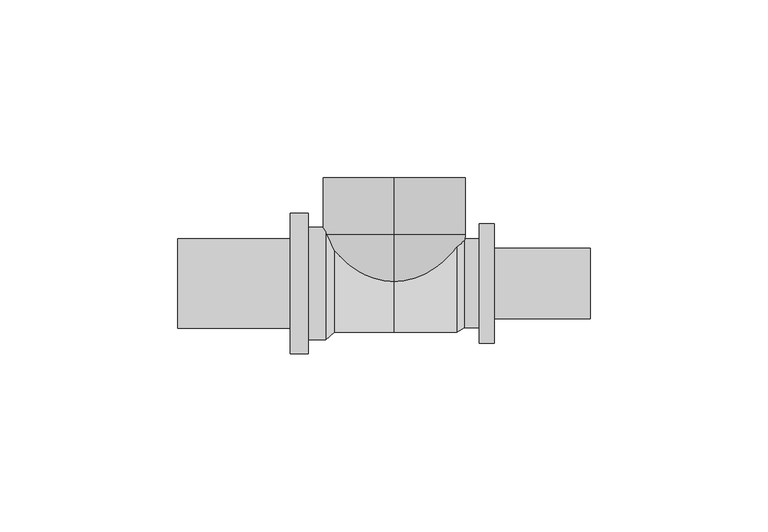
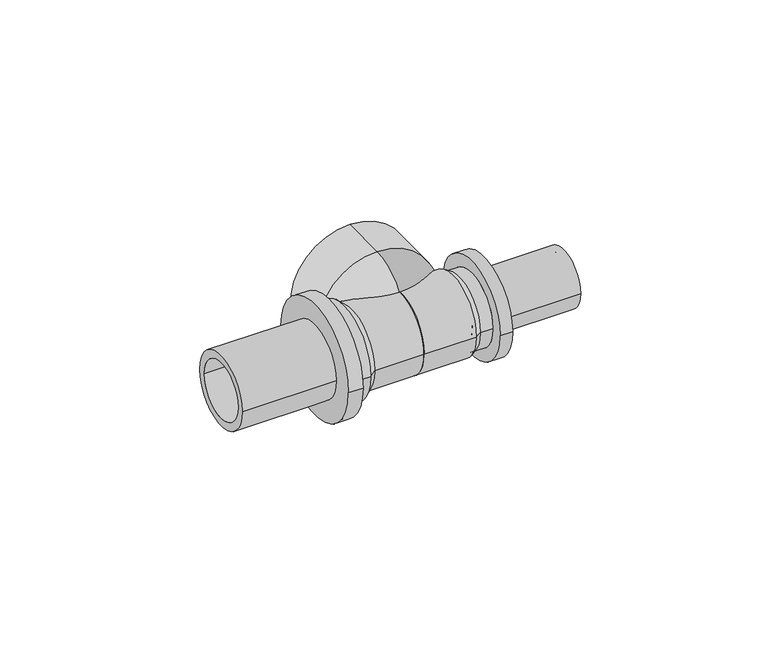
"""IFC4 building model written with IfcOpenShell, lengths in millimetres: pipe fitting geometry, REHAU_RAUTITAN_T-piece RX+, outlet with internal thread : REHAU_RAUTITAN_T-piece RX+, outlet with internal thread."""

import ifcopenshell
import ifcopenshell.guid

model = None  # the IFC model being written
_history = None  # IfcOwnerHistory: only IFC2X3 demands one
_inside = {}  # id of a spatial element -> (the spatial element, [elements in it])
_under = {}  # id of a project, library or spatial element -> (it, [spatial elements below it])
_declared = {}  # id of a project -> (the project, [libraries it declares])
_typed = {}  # id of a type object -> (the type object, [elements of that type])
_made_of = {}  # id of a material, layer set ... -> (it, [elements and type objects made of it])


def new_model(schema):
    """Start an empty IFC model of exactly this schema.

    Asked for "IFC4X3", IfcOpenShell would pick the latest addendum, in which some entities
    have other attributes; the version numbers below select the first issue.
    IFC2X3 requires an IfcOwnerHistory on every rooted entity: one is made here for all.
    """
    global model, _history
    if schema == "IFC4X3":
        model = ifcopenshell.file(schema_version=(4, 3, 0, 0))
    else:
        model = ifcopenshell.file(schema=schema)
    _inside.clear()
    _under.clear()
    _declared.clear()
    _typed.clear()
    _made_of.clear()
    _history = None
    if model.schema == "IFC2X3":
        org = make("IfcOrganization", Name="unknown")
        user = make(
            "IfcPersonAndOrganization",
            ThePerson=make("IfcPerson", FamilyName="unknown"),
            TheOrganization=org,
        )
        app = make(
            "IfcApplication",
            ApplicationDeveloper=org,
            Version="unknown",
            ApplicationFullName="unknown",
            ApplicationIdentifier="unknown",
        )
        _history = make(
            "IfcOwnerHistory",
            OwningUser=user,
            OwningApplication=app,
            ChangeAction="ADDED",
            CreationDate=0,
        )
    return model


def make(cls, **values):
    """One entity of the class cls with the attributes given. An attribute that is None is left unset."""
    return model.create_entity(
        cls, **{name: value for name, value in values.items() if value is not None}
    )


def rooted(cls, **values):
    """An entity with a GlobalId (a new one), such as an element, a storey or a relation."""
    return make(cls, GlobalId=ifcopenshell.guid.new(), OwnerHistory=_history, **values)


def si_unit(unit_type, name, prefix=None):
    """IfcSIUnit, for example si_unit("LENGTHUNIT", "METRE", prefix="MILLI")."""
    return make("IfcSIUnit", UnitType=unit_type, Prefix=prefix, Name=name)


def assignment(units):
    """IfcUnitAssignment: the units of a project."""
    return None if units is None else make("IfcUnitAssignment", Units=units)


def point(xyz):
    """IfcCartesianPoint."""
    return None if xyz is None else make("IfcCartesianPoint", Coordinates=xyz)


def direction(xyz):
    """IfcDirection."""
    return None if xyz is None else make("IfcDirection", DirectionRatios=xyz)


def frame(location, z_axis=None, x_axis=None):
    """IfcAxis2Placement3D, a coordinate frame: its origin and axes. An axis left out is left unset."""
    return make(
        "IfcAxis2Placement3D",
        Location=point(location),
        Axis=direction(z_axis),
        RefDirection=direction(x_axis),
    )


def origin():
    """The frame at (0, 0, 0) with its axes left unset."""
    return frame((0.0, 0.0, 0.0))


def place(relative_to, where):
    """IfcLocalPlacement: puts the frame where relative to a parent placement (None: the world)."""
    return make(
        "IfcLocalPlacement", PlacementRelTo=relative_to, RelativePlacement=where
    )


def context(
    kind, dimensions, precision=None, world=None, true_north=None, identifier=None
):
    """IfcGeometricRepresentationContext, for example the 3D "Model" context."""
    return make(
        "IfcGeometricRepresentationContext",
        ContextIdentifier=identifier,
        ContextType=kind,
        CoordinateSpaceDimension=dimensions,
        Precision=precision,
        WorldCoordinateSystem=world,
        TrueNorth=true_north,
    )


def project(units=None, contexts=None):
    """IfcProject with its units and contexts."""
    return rooted(
        "IfcProject",
        Name="project",
        RepresentationContexts=contexts,
        UnitsInContext=assignment(units),
    )


def spatial(cls, under=None, at=None, **own):
    """A site, building, storey or space (cls), placed at a placement, below another one or the project."""
    s = rooted(cls, ObjectPlacement=at, **own)
    if under is not None:
        _under.setdefault(under.id(), (under, []))[1].append(s)
    return s


def polyline(points):
    """IfcPolyline through the points."""
    return make("IfcPolyline", Points=[point(p) for p in points])


def circle_curve(where, radius):
    """IfcCircle in the frame where."""
    return make("IfcCircle", Position=where, Radius=radius)


def ellipse_curve(where, semi_axis1, semi_axis2):
    """IfcEllipse in the frame where."""
    return make(
        "IfcEllipse", Position=where, SemiAxis1=semi_axis1, SemiAxis2=semi_axis2
    )


def trimmed(basis, trim1, trim2, sense, master):
    """IfcTrimmedCurve: the piece of a basis curve between two trims."""
    return make(
        "IfcTrimmedCurve",
        BasisCurve=basis,
        Trim1=trim1,
        Trim2=trim2,
        SenseAgreement=sense,
        MasterRepresentation=master,
    )


def shape(context_of_items, identifier, shape_type, items):
    """IfcShapeRepresentation: the items that make up one representation, for example the "Body"."""
    return make(
        "IfcShapeRepresentation",
        ContextOfItems=context_of_items,
        RepresentationIdentifier=identifier,
        RepresentationType=shape_type,
        Items=items,
    )


def source(mapping_origin, context_of_items, identifier, shape_type, items):
    """IfcRepresentationMap: a shape defined once, which mapped items show again and again."""
    return make(
        "IfcRepresentationMap",
        MappingOrigin=mapping_origin,
        MappedRepresentation=shape(context_of_items, identifier, shape_type, items),
    )


def transform(
    local_origin,
    x_axis=None,
    y_axis=None,
    z_axis=None,
    scale=None,
    scale2=None,
    scale3=None,
    uniform=True,
):
    """IfcCartesianTransformationOperator3D, or its non-uniform kind. x_axis, y_axis, z_axis: its Axis1, 2, 3."""
    if uniform:
        return make(
            "IfcCartesianTransformationOperator3D",
            Axis1=direction(x_axis),
            Axis2=direction(y_axis),
            LocalOrigin=point(local_origin),
            Scale=scale,
            Axis3=direction(z_axis),
        )
    return make(
        "IfcCartesianTransformationOperator3DnonUniform",
        Axis1=direction(x_axis),
        Axis2=direction(y_axis),
        LocalOrigin=point(local_origin),
        Scale=scale,
        Axis3=direction(z_axis),
        Scale2=scale2,
        Scale3=scale3,
    )


def mapped(mapping_source, mapping_target):
    """IfcMappedItem: shows the shape of a source again, moved by a transform."""
    return make(
        "IfcMappedItem", MappingSource=mapping_source, MappingTarget=mapping_target
    )


def made_of(thing, what):
    """Note that an element or type object is made of a material, layer set ...; save() writes the relation."""
    if what is not None:
        _made_of.setdefault(what.id(), (what, []))[1].append(thing)
    return thing


def element(
    cls,
    number,
    at=None,
    inside=None,
    cuts=None,
    type_object=None,
    material=None,
    context=None,
    identifier="Body",
    shape_type=None,
    held_by="IfcProductDefinitionShape",
    body=None,
    shapes=None,
    **own,
):
    """One element of the class cls, such as IfcWall. Its Tag is "e" and its number.

    at: its placement. inside: the storey or other place that contains it. cuts: it is an
    opening in that element (IfcRelVoidsElement). A single representation is given by context,
    identifier, shape_type and body (its items); several are given by shapes. held_by: the class
    of the entity that holds the representations. save() writes the other relations.
    """
    e = rooted(cls, Tag="e%d" % number, ObjectPlacement=at, **own)
    if body is not None:
        shapes = [shape(context, identifier, shape_type, body)]
    if shapes is not None:
        e.Representation = make(held_by, Representations=shapes)
    if inside is not None:
        _inside.setdefault(inside.id(), (inside, []))[1].append(e)
    if cuts is not None:
        rooted(
            "IfcRelVoidsElement", RelatingBuildingElement=cuts, RelatedOpeningElement=e
        )
    if type_object is not None:
        _typed.setdefault(type_object.id(), (type_object, []))[1].append(e)
    return made_of(e, material)


def aggregate(whole, parts):
    """IfcRelAggregates: a whole, such as a stair, and the parts it consists of."""
    return rooted("IfcRelAggregates", RelatingObject=whole, RelatedObjects=parts)


def save(model, path):
    """Write the relations noted so far, then the file.

    IfcRelAggregates (storeys below a building ...), IfcRelContainedInSpatialStructure (elements
    in a storey), IfcRelDefinesByType, IfcRelAssociatesMaterial and IfcRelDeclares: one each for
    every whole, place, type object, material and project.
    """
    for whole, parts in _under.values():
        aggregate(whole, parts)
    for where, things in _inside.values():
        rooted(
            "IfcRelContainedInSpatialStructure",
            RelatedElements=things,
            RelatingStructure=where,
        )
    for kind, things in _typed.values():
        rooted("IfcRelDefinesByType", RelatedObjects=things, RelatingType=kind)
    for what, things in _made_of.values():
        rooted("IfcRelAssociatesMaterial", RelatedObjects=things, RelatingMaterial=what)
    for by, libraries in _declared.values():
        rooted("IfcRelDeclares", RelatingContext=by, RelatedDefinitions=libraries)
    model.write(path)


def plane_surface(at):
    """IfcPlane: the flat surface through the origin of the frame at, square to its z axis."""
    return make("IfcPlane", Position=at)


def cylinder_surface(at, radius):
    """IfcCylindricalSurface: all points at the distance radius from the z axis of the frame at."""
    return make("IfcCylindricalSurface", Position=at, Radius=radius)


def revolved_surface(curve, axis_point, axis_direction):
    """IfcSurfaceOfRevolution: the curve turned about the line through axis_point along axis_direction."""
    return make(
        "IfcSurfaceOfRevolution",
        SweptCurve=make("IfcArbitraryOpenProfileDef", ProfileType="CURVE", Curve=curve),
        AxisPosition=make("IfcAxis1Placement", Location=point(axis_point), Axis=direction(axis_direction)),
    )


def advanced_brep(points, edges, surfaces, faces):
    """IfcAdvancedBrep: a solid bounded by faces that lie on surfaces and meet in shared edges.

    An edge is (start, end): straight between two places in points (the first is 0);
    or (start, end, curve); or (start, end, curve, False) where it runs against its curve.
    A face is (place in surfaces, loops), or (place, loops, False) where it looks against
    its surface's normal. A loop lists edges by number (the first is 1), with a minus sign
    where the edge is run from its end to its start. The first loop is the outer one.
    """
    corners = [point(p) for p in points]
    vertices = [make("IfcVertexPoint", VertexGeometry=c) for c in corners]
    made = []
    for start, end, *more in edges:
        made.append(
            make(
                "IfcEdgeCurve",
                EdgeStart=vertices[start],
                EdgeEnd=vertices[end],
                EdgeGeometry=more[0] if more else make("IfcPolyline", Points=[corners[start], corners[end]]),
                SameSense=more[1] if len(more) > 1 else True,
            )
        )
    hull = []
    for where, loops, *sense in faces:
        bounds = []
        for j, loop in enumerate(loops):
            ring = [make("IfcOrientedEdge", EdgeElement=made[abs(k) - 1], Orientation=k > 0) for k in loop]
            bounds.append(
                make(
                    "IfcFaceOuterBound" if j == 0 else "IfcFaceBound",
                    Bound=make("IfcEdgeLoop", EdgeList=ring),
                    Orientation=True,
                )
            )
        hull.append(make("IfcAdvancedFace", Bounds=bounds, FaceSurface=surfaces[where], SameSense=sense[0] if sense else True))
    return make("IfcAdvancedBrep", Outer=make("IfcClosedShell", CfsFaces=hull))


def pipe_fitting_2d11deeb(model_context):
    return source(origin(), model_context, "Body", "AdvancedBrep", [
        advanced_brep(
        [(0.0, -2.3672221, 4.52), (0.0, -2.3672221, -4.52), (0.0, 13.7, -20.095), (0.0, 13.7, 20.095), (0.0, 1.6553736, 4.52), (0.0, 1.6553736, -4.52), (0.0, 13.7, 16.075), (0.0, 13.7, -16.075), (0.0, 29.7, 16.075), (0.0, 29.7, -16.075), (0.0, 29.7, -20.095), (0.0, 29.7, 20.095)],
        [
            (0, 1, circle_curve(frame((0.0, -2.3672221, 0.0), z_axis=(0.0, 1.0, 0.0), x_axis=(0.0, 0.0, -1.0)), 4.52)),
            (1, 2, circle_curve(frame((0.0, 13.7, -4.02), z_axis=(1.0, 0.0, 0.0), x_axis=(0.0, 1.0, 0.0)), 16.075)),
            (2, 3, circle_curve(frame((0.0, 13.7, 0.0), z_axis=(0.0, -1.0, 0.0), x_axis=(0.0, 0.0, -1.0)), 20.095)),
            (3, 0, circle_curve(frame((0.0, 13.7, 4.02), z_axis=(1.0, 0.0, 0.0), x_axis=(0.0, 1.0, 0.0)), 16.075)),
            (4, 5, circle_curve(frame((0.0, 1.6553736, 0.0), z_axis=(0.0, 1.0, 0.0), x_axis=(0.0, 0.0, -1.0)), 4.52)),
            (5, 1),
            (0, 4),
            (6, 7, circle_curve(frame((0.0, 13.7, 0.0), z_axis=(0.0, 1.0, 0.0), x_axis=(0.0, 0.0, -1.0)), 16.075)),
            (7, 5, circle_curve(frame((0.0, 13.7, -4.02), z_axis=(-1.0, 0.0, 0.0), x_axis=(0.0, 1.0, 0.0)), 12.055)),
            (4, 6, circle_curve(frame((0.0, 13.7, 4.02), z_axis=(-1.0, 0.0, 0.0), x_axis=(0.0, 1.0, 0.0)), 12.055)),
            (8, 9, circle_curve(frame((0.0, 29.7, 0.0), z_axis=(0.0, 1.0, 0.0), x_axis=(0.0, 0.0, -1.0)), 16.075)),
            (9, 7),
            (6, 8),
            (2, 10),
            (10, 11, circle_curve(frame((0.0, 29.7, 0.0), z_axis=(0.0, -1.0, 0.0), x_axis=(0.0, 0.0, -1.0)), 20.095)),
            (11, 3),
            (1, 0, circle_curve(frame((0.0, -2.3672221, 0.0), z_axis=(0.0, 1.0, 0.0), x_axis=(0.0, 0.0, 1.0)), 4.52)),
            (3, 2, circle_curve(frame((0.0, 13.7, 0.0), z_axis=(0.0, -1.0, 0.0), x_axis=(0.0, 0.0, 1.0)), 20.095)),
            (5, 4, circle_curve(frame((0.0, 1.6553736, 0.0), z_axis=(0.0, 1.0, 0.0), x_axis=(0.0, 0.0, 1.0)), 4.52)),
            (7, 6, circle_curve(frame((0.0, 13.7, 0.0), z_axis=(0.0, 1.0, 0.0), x_axis=(0.0, 0.0, 1.0)), 16.075)),
            (9, 8, circle_curve(frame((0.0, 29.7, 0.0), z_axis=(0.0, 1.0, 0.0), x_axis=(0.0, 0.0, 1.0)), 16.075)),
            (10, 11, circle_curve(frame((0.0, 29.7, 0.0), z_axis=(0.0, 1.0, 0.0), x_axis=(0.0, 0.0, 1.0)), 20.095)),
        ],
        [
            revolved_surface(trimmed(ellipse_curve(frame((0.0, 13.7, -4.02), z_axis=(-1.0, 0.0, 0.0), x_axis=(0.0, 1.0, 0.0)), 16.075, 16.075), [point((0.0, 13.7, -20.095))], [point((0.0, -2.3672221, -4.52))], True, "CARTESIAN"), (0.0, 0.0, 0.0), (0.0, -1.0, 0.0)),
            revolved_surface(polyline([(0.0, -2.3672221, -4.52), (0.0, 1.6553736, -4.52)]), (0.0, 0.0, 0.0), (0.0, -1.0, 0.0)),
            revolved_surface(trimmed(ellipse_curve(frame((0.0, 13.7, -4.02), z_axis=(1.0, 0.0, 0.0), x_axis=(0.0, 1.0, 0.0)), 12.055, 12.055), [point((0.0, 1.6553736, -4.52))], [point((0.0, 13.7, -16.075))], True, "CARTESIAN"), (0.0, 0.0, 0.0), (0.0, -1.0, 0.0)),
            revolved_surface(polyline([(0.0, 13.7, -16.075), (0.0, 29.7, -16.075)]), (0.0, 0.0, 0.0), (0.0, -1.0, 0.0)),
            cylinder_surface(frame((0.0, 0.0, 0.0), z_axis=(0.0, -1.0, 0.0), x_axis=(0.0, 0.0, -1.0)), 20.095),
            revolved_surface(trimmed(ellipse_curve(frame((0.0, 13.7, 4.02), z_axis=(1.0, 0.0, 0.0), x_axis=(0.0, 1.0, 0.0)), 16.075, 16.075), [point((0.0, 13.7, 20.095))], [point((0.0, -2.3672221, 4.52))], True, "CARTESIAN"), (0.0, 0.0, 0.0), (0.0, -1.0, 0.0)),
            revolved_surface(polyline([(0.0, -2.3672221, 4.52), (0.0, 1.6553736, 4.52)]), (0.0, 0.0, 0.0), (0.0, -1.0, 0.0)),
            revolved_surface(trimmed(ellipse_curve(frame((0.0, 13.7, 4.02), z_axis=(-1.0, 0.0, 0.0), x_axis=(0.0, 1.0, 0.0)), 12.055, 12.055), [point((0.0, 1.6553736, 4.52))], [point((0.0, 13.7, 16.075))], True, "CARTESIAN"), (0.0, 0.0, 0.0), (0.0, -1.0, 0.0)),
            revolved_surface(polyline([(0.0, 13.7, 16.075), (0.0, 29.7, 16.075)]), (0.0, 0.0, 0.0), (0.0, -1.0, 0.0)),
            plane_surface(frame((0.0, 29.7, 0.0), z_axis=(0.0, 1.0, 0.0), x_axis=(0.0, 0.0, 1.0))),
            cylinder_surface(frame((0.0, 0.0, 0.0), z_axis=(0.0, -1.0, 0.0), x_axis=(0.0, 0.0, 1.0)), 20.095),
        ],
        [
            (0, [[1, 2, 3, 4]]),
            (1, [[5, 6, -1, 7]]),
            (2, [[8, 9, -5, 10]]),
            (3, [[11, 12, -8, 13]]),
            (4, [[-3, 14, 15, 16]]),
            (5, [[17, -4, 18, -2]]),
            (6, [[19, -7, -17, -6]]),
            (7, [[20, -10, -19, -9]]),
            (8, [[21, -13, -20, -12]]),
            (9, [[22, -15], [-21, -11]]),
            (10, [[-18, -16, -22, -14]]),
        ],
    ),
        advanced_brep(
        [(19.74, 7.595, 0.0), (19.74, -7.595, 0.0), (55.14, -7.595, 0.0), (55.14, 7.595, 0.0), (17.64, 11.01, 0.0), (17.64, -11.01, 0.0), (0.0, 11.01, 0.0), (0.0, -11.01, 0.0), (17.64, 13.775, 0.0), (17.64, -13.775, 0.0), (0.0, -13.775, 0.0), (0.0, 13.775, 0.0), (19.74, 12.5, 0.0), (19.74, -12.5, 0.0), (23.94, 12.5, 0.0), (23.94, -12.5, 0.0), (28.14, 16.795, 0.0), (28.14, -16.795, 0.0), (23.94, -16.795, 0.0), (23.94, 16.795, 0.0), (55.14, 9.87, 0.0), (55.14, -9.87, 0.0), (28.14, -9.87, 0.0), (28.14, 9.87, 0.0)],
        [
            (0, 1, circle_curve(frame((19.74, 0.0, 0.0), z_axis=(-1.0, 0.0, 0.0), x_axis=(0.0, -1.0, 0.0)), 7.595)),
            (1, 2),
            (2, 3, circle_curve(frame((55.14, 0.0, 0.0), z_axis=(1.0, 0.0, 0.0), x_axis=(0.0, -1.0, 0.0)), 7.595)),
            (3, 0),
            (4, 5, circle_curve(frame((17.64, 0.0, 0.0), z_axis=(-1.0, 0.0, 0.0), x_axis=(0.0, -1.0, 0.0)), 11.01)),
            (5, 1),
            (0, 4),
            (6, 7, circle_curve(frame((0.0, 0.0, 0.0), z_axis=(-1.0, 0.0, 0.0), x_axis=(0.0, -1.0, 0.0)), 11.01)),
            (7, 5),
            (4, 6),
            (8, 9, circle_curve(frame((17.64, 0.0, 0.0), z_axis=(-1.0, 0.0, 0.0), x_axis=(0.0, -1.0, 0.0)), 13.775)),
            (9, 10),
            (10, 11, circle_curve(frame((0.0, 0.0, 0.0), z_axis=(1.0, 0.0, 0.0), x_axis=(0.0, -1.0, 0.0)), 13.775)),
            (11, 8),
            (12, 13, circle_curve(frame((19.74, 0.0, 0.0), z_axis=(-1.0, 0.0, 0.0), x_axis=(0.0, -1.0, 0.0)), 12.5)),
            (13, 9),
            (8, 12),
            (14, 15, circle_curve(frame((23.94, 0.0, 0.0), z_axis=(-1.0, 0.0, 0.0), x_axis=(0.0, -1.0, 0.0)), 12.5)),
            (15, 13),
            (12, 14),
            (16, 17, circle_curve(frame((28.14, 0.0, 0.0), z_axis=(-1.0, 0.0, 0.0), x_axis=(0.0, -1.0, 0.0)), 16.795)),
            (17, 18),
            (18, 19, circle_curve(frame((23.94, 0.0, 0.0), z_axis=(1.0, 0.0, 0.0), x_axis=(0.0, -1.0, 0.0)), 16.795)),
            (19, 16),
            (20, 21, circle_curve(frame((55.14, 0.0, 0.0), z_axis=(-1.0, 0.0, 0.0), x_axis=(0.0, -1.0, 0.0)), 9.87)),
            (21, 22),
            (22, 23, circle_curve(frame((28.14, 0.0, 0.0), z_axis=(1.0, 0.0, 0.0), x_axis=(0.0, -1.0, 0.0)), 9.87)),
            (23, 20),
            (20, 21, circle_curve(frame((55.14, 0.0, 0.0), z_axis=(1.0, 0.0, 0.0), x_axis=(0.0, 1.0, 0.0)), 9.87)),
            (2, 3, circle_curve(frame((55.14, 0.0, 0.0), z_axis=(-1.0, 0.0, 0.0), x_axis=(0.0, 1.0, 0.0)), 7.595)),
            (1, 0, circle_curve(frame((19.74, 0.0, 0.0), z_axis=(-1.0, 0.0, 0.0), x_axis=(0.0, 1.0, 0.0)), 7.595)),
            (5, 4, circle_curve(frame((17.64, 0.0, 0.0), z_axis=(-1.0, 0.0, 0.0), x_axis=(0.0, 1.0, 0.0)), 11.01)),
            (7, 6, circle_curve(frame((0.0, 0.0, 0.0), z_axis=(-1.0, 0.0, 0.0), x_axis=(0.0, 1.0, 0.0)), 11.01)),
            (10, 11, circle_curve(frame((0.0, 0.0, 0.0), z_axis=(-1.0, 0.0, 0.0), x_axis=(0.0, 1.0, 0.0)), 13.775)),
            (9, 8, circle_curve(frame((17.64, 0.0, 0.0), z_axis=(-1.0, 0.0, 0.0), x_axis=(0.0, 1.0, 0.0)), 13.775)),
            (13, 12, circle_curve(frame((19.74, 0.0, 0.0), z_axis=(-1.0, 0.0, 0.0), x_axis=(0.0, 1.0, 0.0)), 12.5)),
            (15, 14, circle_curve(frame((23.94, 0.0, 0.0), z_axis=(-1.0, 0.0, 0.0), x_axis=(0.0, 1.0, 0.0)), 12.5)),
            (18, 19, circle_curve(frame((23.94, 0.0, 0.0), z_axis=(-1.0, 0.0, 0.0), x_axis=(0.0, 1.0, 0.0)), 16.795)),
            (17, 16, circle_curve(frame((28.14, 0.0, 0.0), z_axis=(-1.0, 0.0, 0.0), x_axis=(0.0, 1.0, 0.0)), 16.795)),
            (22, 23, circle_curve(frame((28.14, 0.0, 0.0), z_axis=(-1.0, 0.0, 0.0), x_axis=(0.0, 1.0, 0.0)), 9.87)),
        ],
        [
            revolved_surface(polyline([(55.14, -7.595, 0.0), (19.74, -7.595, 0.0)]), (0.0, 0.0, 0.0), (1.0, 0.0, 0.0)),
            revolved_surface(polyline([(19.74, -7.595, 0.0), (17.64, -11.01, 0.0)]), (0.0, 0.0, 0.0), (1.0, 0.0, 0.0)),
            revolved_surface(polyline([(17.64, -11.01, 0.0), (0.0, -11.01, 0.0)]), (0.0, 0.0, 0.0), (1.0, 0.0, 0.0)),
            cylinder_surface(frame((0.0, 0.0, 0.0), z_axis=(1.0, 0.0, 0.0), x_axis=(0.0, -1.0, 0.0)), 13.775),
            revolved_surface(polyline([(17.64, -13.775, 0.0), (19.74, -12.5, 0.0)]), (0.0, 0.0, 0.0), (1.0, 0.0, 0.0)),
            cylinder_surface(frame((0.0, 0.0, 0.0), z_axis=(1.0, 0.0, 0.0), x_axis=(0.0, -1.0, 0.0)), 12.5),
            cylinder_surface(frame((0.0, 0.0, 0.0), z_axis=(1.0, 0.0, 0.0), x_axis=(0.0, -1.0, 0.0)), 16.795),
            cylinder_surface(frame((0.0, 0.0, 0.0), z_axis=(1.0, 0.0, 0.0), x_axis=(0.0, -1.0, 0.0)), 9.87),
            plane_surface(frame((55.14, 0.0, 0.0), z_axis=(1.0, 0.0, 0.0), x_axis=(0.0, 1.0, 0.0))),
            revolved_surface(polyline([(55.14, 7.595, 0.0), (19.74, 7.595, 0.0)]), (0.0, 0.0, 0.0), (1.0, 0.0, 0.0)),
            revolved_surface(polyline([(19.74, 7.595, 0.0), (17.64, 11.01, 0.0)]), (0.0, 0.0, 0.0), (1.0, 0.0, 0.0)),
            revolved_surface(polyline([(17.64, 11.01, 0.0), (0.0, 11.01, 0.0)]), (0.0, 0.0, 0.0), (1.0, 0.0, 0.0)),
            plane_surface(frame((0.0, 0.0, 0.0), z_axis=(-1.0, 0.0, 0.0), x_axis=(0.0, 1.0, 0.0))),
            cylinder_surface(frame((0.0, 0.0, 0.0), z_axis=(1.0, 0.0, 0.0), x_axis=(0.0, 1.0, 0.0)), 13.775),
            revolved_surface(polyline([(17.64, 13.775, 0.0), (19.74, 12.5, 0.0)]), (0.0, 0.0, 0.0), (1.0, 0.0, 0.0)),
            cylinder_surface(frame((0.0, 0.0, 0.0), z_axis=(1.0, 0.0, 0.0), x_axis=(0.0, 1.0, 0.0)), 12.5),
            plane_surface(frame((23.94, 0.0, 0.0), z_axis=(-1.0, 0.0, 0.0), x_axis=(0.0, 1.0, 0.0))),
            cylinder_surface(frame((0.0, 0.0, 0.0), z_axis=(1.0, 0.0, 0.0), x_axis=(0.0, 1.0, 0.0)), 16.795),
            plane_surface(frame((28.14, 0.0, 0.0), z_axis=(1.0, 0.0, 0.0), x_axis=(0.0, 1.0, 0.0))),
            cylinder_surface(frame((0.0, 0.0, 0.0), z_axis=(1.0, 0.0, 0.0), x_axis=(0.0, 1.0, 0.0)), 9.87),
        ],
        [
            (0, [[1, 2, 3, 4]]),
            (1, [[5, 6, -1, 7]]),
            (2, [[8, 9, -5, 10]]),
            (3, [[11, 12, 13, 14]]),
            (4, [[15, 16, -11, 17]]),
            (5, [[18, 19, -15, 20]]),
            (6, [[21, 22, 23, 24]]),
            (7, [[25, 26, 27, 28]]),
            (8, [[29, -25], [30, -3]]),
            (9, [[31, -4, -30, -2]]),
            (10, [[32, -7, -31, -6]]),
            (11, [[33, -10, -32, -9]]),
            (12, [[34, -13], [-33, -8]]),
            (13, [[35, -14, -34, -12]]),
            (14, [[36, -17, -35, -16]]),
            (15, [[37, -20, -36, -19]]),
            (16, [[38, -23], [-37, -18]]),
            (17, [[39, -24, -38, -22]]),
            (18, [[-39, -21], [40, -27]]),
            (19, [[-29, -28, -40, -26]]),
        ],
    ),
        advanced_brep(
        [(-29.16, 12.6, 0.0), (-29.16, -12.6, 0.0), (-60.82, -12.6, 0.0), (-60.82, 12.6, 0.0), (-24.21, 19.79, 0.0), (-24.21, -19.79, 0.0), (-29.16, -19.79, 0.0), (-29.16, 19.79, 0.0), (-19.26, 15.84, 0.0), (-19.26, -15.84, 0.0), (-24.21, -15.84, 0.0), (-24.21, 15.84, 0.0), (-16.785, 13.775, 0.0), (-16.785, -13.775, 0.0), (0.0, 13.775, 0.0), (0.0, -13.775, 0.0), (-16.785, 11.01, 0.0), (-16.785, -11.01, 0.0), (0.0, -11.01, 0.0), (0.0, 11.01, 0.0), (-19.26, 9.895, 0.0), (-19.26, -9.895, 0.0), (-60.82, 9.895, 0.0), (-60.82, -9.895, 0.0)],
        [
            (0, 1, circle_curve(frame((-29.16, 0.0, 0.0), z_axis=(-1.0, 0.0, 0.0), x_axis=(0.0, -1.0, 0.0)), 12.6)),
            (1, 2),
            (2, 3, circle_curve(frame((-60.82, 0.0, 0.0), z_axis=(1.0, 0.0, 0.0), x_axis=(0.0, -1.0, 0.0)), 12.6)),
            (3, 0),
            (4, 5, circle_curve(frame((-24.21, 0.0, 0.0), z_axis=(-1.0, 0.0, 0.0), x_axis=(0.0, -1.0, 0.0)), 19.79)),
            (5, 6),
            (6, 7, circle_curve(frame((-29.16, 0.0, 0.0), z_axis=(1.0, 0.0, 0.0), x_axis=(0.0, -1.0, 0.0)), 19.79)),
            (7, 4),
            (8, 9, circle_curve(frame((-19.26, 0.0, 0.0), z_axis=(-1.0, 0.0, 0.0), x_axis=(0.0, -1.0, 0.0)), 15.84)),
            (9, 10),
            (10, 11, circle_curve(frame((-24.21, 0.0, 0.0), z_axis=(1.0, 0.0, 0.0), x_axis=(0.0, -1.0, 0.0)), 15.84)),
            (11, 8),
            (12, 13, circle_curve(frame((-16.785, 0.0, 0.0), z_axis=(-1.0, 0.0, 0.0), x_axis=(0.0, -1.0, 0.0)), 13.775)),
            (13, 9),
            (8, 12),
            (14, 15, circle_curve(frame((0.0, 0.0, 0.0), z_axis=(-1.0, 0.0, 0.0), x_axis=(0.0, -1.0, 0.0)), 13.775)),
            (15, 13),
            (12, 14),
            (16, 17, circle_curve(frame((-16.785, 0.0, 0.0), z_axis=(-1.0, 0.0, 0.0), x_axis=(0.0, -1.0, 0.0)), 11.01)),
            (17, 18),
            (18, 19, circle_curve(frame((0.0, 0.0, 0.0), z_axis=(1.0, 0.0, 0.0), x_axis=(0.0, -1.0, 0.0)), 11.01)),
            (19, 16),
            (20, 21, circle_curve(frame((-19.26, 0.0, 0.0), z_axis=(-1.0, 0.0, 0.0), x_axis=(0.0, -1.0, 0.0)), 9.895)),
            (21, 17),
            (16, 20),
            (22, 23, circle_curve(frame((-60.82, 0.0, 0.0), z_axis=(-1.0, 0.0, 0.0), x_axis=(0.0, -1.0, 0.0)), 9.895)),
            (23, 21),
            (20, 22),
            (1, 0, circle_curve(frame((-29.16, 0.0, 0.0), z_axis=(-1.0, 0.0, 0.0), x_axis=(0.0, 1.0, 0.0)), 12.6)),
            (3, 2, circle_curve(frame((-60.82, 0.0, 0.0), z_axis=(1.0, 0.0, 0.0), x_axis=(0.0, 1.0, 0.0)), 12.6)),
            (6, 7, circle_curve(frame((-29.16, 0.0, 0.0), z_axis=(-1.0, 0.0, 0.0), x_axis=(0.0, 1.0, 0.0)), 19.79)),
            (5, 4, circle_curve(frame((-24.21, 0.0, 0.0), z_axis=(-1.0, 0.0, 0.0), x_axis=(0.0, 1.0, 0.0)), 19.79)),
            (10, 11, circle_curve(frame((-24.21, 0.0, 0.0), z_axis=(-1.0, 0.0, 0.0), x_axis=(0.0, 1.0, 0.0)), 15.84)),
            (9, 8, circle_curve(frame((-19.26, 0.0, 0.0), z_axis=(-1.0, 0.0, 0.0), x_axis=(0.0, 1.0, 0.0)), 15.84)),
            (13, 12, circle_curve(frame((-16.785, 0.0, 0.0), z_axis=(-1.0, 0.0, 0.0), x_axis=(0.0, 1.0, 0.0)), 13.775)),
            (15, 14, circle_curve(frame((0.0, 0.0, 0.0), z_axis=(-1.0, 0.0, 0.0), x_axis=(0.0, 1.0, 0.0)), 13.775)),
            (18, 19, circle_curve(frame((0.0, 0.0, 0.0), z_axis=(-1.0, 0.0, 0.0), x_axis=(0.0, 1.0, 0.0)), 11.01)),
            (17, 16, circle_curve(frame((-16.785, 0.0, 0.0), z_axis=(-1.0, 0.0, 0.0), x_axis=(0.0, 1.0, 0.0)), 11.01)),
            (21, 20, circle_curve(frame((-19.26, 0.0, 0.0), z_axis=(-1.0, 0.0, 0.0), x_axis=(0.0, 1.0, 0.0)), 9.895)),
            (23, 22, circle_curve(frame((-60.82, 0.0, 0.0), z_axis=(-1.0, 0.0, 0.0), x_axis=(0.0, 1.0, 0.0)), 9.895)),
        ],
        [
            cylinder_surface(frame((0.0, 0.0, 0.0), z_axis=(1.0, 0.0, 0.0), x_axis=(0.0, -1.0, 0.0)), 12.6),
            cylinder_surface(frame((0.0, 0.0, 0.0), z_axis=(1.0, 0.0, 0.0), x_axis=(0.0, -1.0, 0.0)), 19.79),
            cylinder_surface(frame((0.0, 0.0, 0.0), z_axis=(1.0, 0.0, 0.0), x_axis=(0.0, -1.0, 0.0)), 15.84),
            revolved_surface(polyline([(-19.26, -15.84, 0.0), (-16.785, -13.775, 0.0)]), (0.0, 0.0, 0.0), (1.0, 0.0, 0.0)),
            cylinder_surface(frame((0.0, 0.0, 0.0), z_axis=(1.0, 0.0, 0.0), x_axis=(0.0, -1.0, 0.0)), 13.775),
            revolved_surface(polyline([(0.0, -11.01, 0.0), (-16.785, -11.01, 0.0)]), (0.0, 0.0, 0.0), (1.0, 0.0, 0.0)),
            revolved_surface(polyline([(-16.785, -11.01, 0.0), (-19.26, -9.895, 0.0)]), (0.0, 0.0, 0.0), (1.0, 0.0, 0.0)),
            revolved_surface(polyline([(-19.26, -9.895, 0.0), (-60.82, -9.895, 0.0)]), (0.0, 0.0, 0.0), (1.0, 0.0, 0.0)),
            cylinder_surface(frame((0.0, 0.0, 0.0), z_axis=(1.0, 0.0, 0.0), x_axis=(0.0, 1.0, 0.0)), 12.6),
            plane_surface(frame((-29.16, 0.0, 0.0), z_axis=(-1.0, 0.0, 0.0), x_axis=(0.0, 1.0, 0.0))),
            cylinder_surface(frame((0.0, 0.0, 0.0), z_axis=(1.0, 0.0, 0.0), x_axis=(0.0, 1.0, 0.0)), 19.79),
            plane_surface(frame((-24.21, 0.0, 0.0), z_axis=(1.0, 0.0, 0.0), x_axis=(0.0, 1.0, 0.0))),
            cylinder_surface(frame((0.0, 0.0, 0.0), z_axis=(1.0, 0.0, 0.0), x_axis=(0.0, 1.0, 0.0)), 15.84),
            revolved_surface(polyline([(-19.26, 15.84, 0.0), (-16.785, 13.775, 0.0)]), (0.0, 0.0, 0.0), (1.0, 0.0, 0.0)),
            cylinder_surface(frame((0.0, 0.0, 0.0), z_axis=(1.0, 0.0, 0.0), x_axis=(0.0, 1.0, 0.0)), 13.775),
            plane_surface(frame((0.0, 0.0, 0.0), z_axis=(1.0, 0.0, 0.0), x_axis=(0.0, 1.0, 0.0))),
            revolved_surface(polyline([(0.0, 11.01, 0.0), (-16.785, 11.01, 0.0)]), (0.0, 0.0, 0.0), (1.0, 0.0, 0.0)),
            revolved_surface(polyline([(-16.785, 11.01, 0.0), (-19.26, 9.895, 0.0)]), (0.0, 0.0, 0.0), (1.0, 0.0, 0.0)),
            revolved_surface(polyline([(-19.26, 9.895, 0.0), (-60.82, 9.895, 0.0)]), (0.0, 0.0, 0.0), (1.0, 0.0, 0.0)),
            plane_surface(frame((-60.82, 0.0, 0.0), z_axis=(-1.0, 0.0, 0.0), x_axis=(0.0, 1.0, 0.0))),
        ],
        [
            (0, [[1, 2, 3, 4]]),
            (1, [[5, 6, 7, 8]]),
            (2, [[9, 10, 11, 12]]),
            (3, [[13, 14, -9, 15]]),
            (4, [[16, 17, -13, 18]]),
            (5, [[19, 20, 21, 22]]),
            (6, [[23, 24, -19, 25]]),
            (7, [[26, 27, -23, 28]]),
            (8, [[29, -4, 30, -2]]),
            (9, [[31, -7], [-29, -1]]),
            (10, [[32, -8, -31, -6]]),
            (11, [[-32, -5], [33, -11]]),
            (12, [[34, -12, -33, -10]]),
            (13, [[35, -15, -34, -14]]),
            (14, [[36, -18, -35, -17]]),
            (15, [[-36, -16], [37, -21]]),
            (16, [[38, -22, -37, -20]]),
            (17, [[39, -25, -38, -24]]),
            (18, [[40, -28, -39, -27]]),
            (19, [[-30, -3], [-40, -26]]),
        ],
    ),
    ])


if __name__ == "__main__":
    model = new_model("IFC4")
    model_context = context("Model", 3, world=origin())
    ifc_project = project(units=[si_unit("LENGTHUNIT", "METRE", prefix="MILLI")], contexts=[model_context])
    site = spatial("IfcSite", under=ifc_project)
    building = spatial("IfcBuilding", under=site)
    placement = place(None, origin())
    pipe_fitting_shape = pipe_fitting_2d11deeb(model_context)
    element("IfcPipeFitting", 1, ObjectType="REHAU_RAUTITAN_T-piece RX+, outlet with internal thread : REHAU_RAUTITAN_T-piece RX+, outlet with internal thread", at=placement, inside=building, context=model_context, shape_type="MappedRepresentation", body=[
        mapped(pipe_fitting_shape, transform((0.0, 0.0, 0.0), x_axis=(1.0, 0.0, 0.0), y_axis=(0.0, 1.0, 0.0), z_axis=(0.0, 0.0, 1.0))),
    ])
    save(model, "model.ifc")
